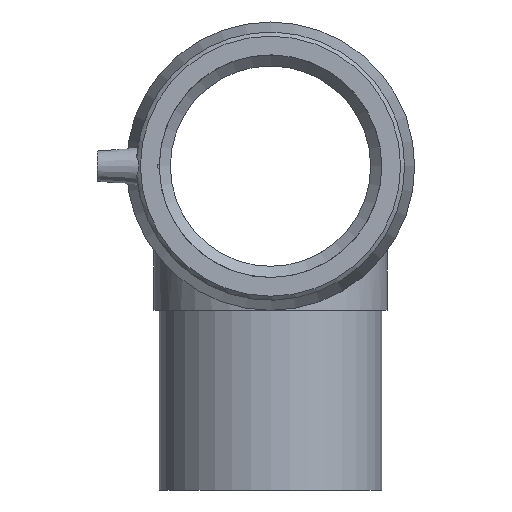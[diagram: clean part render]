
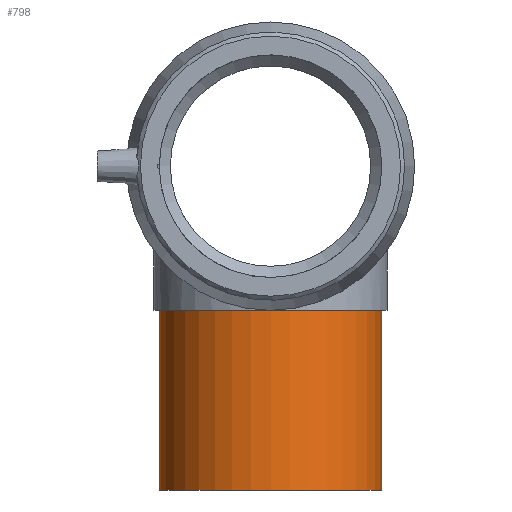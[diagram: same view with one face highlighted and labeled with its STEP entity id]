
A CAD part, left-side view. The second image highlights one B-rep face of the part: STEP entity #798.
In plain terms, the highlighted cylindrical face has radius 55 mm (diameter 110 mm), a full revolution.
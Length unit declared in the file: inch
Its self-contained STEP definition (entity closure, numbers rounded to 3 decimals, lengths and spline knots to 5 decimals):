
#79=FACE_OUTER_BOUND('',#128,.T.);
#128=EDGE_LOOP('',(#531,#532,#533,#534));
#189=LINE('',#1265,#220);
#220=VECTOR('',#993,2.16535);
#251=CIRCLE('',#868,2.16535);
#252=CIRCLE('',#869,2.16535);
#322=VERTEX_POINT('',#1262);
#323=VERTEX_POINT('',#1264);
#407=EDGE_CURVE('',#322,#322,#251,.T.);
#408=EDGE_CURVE('',#322,#323,#189,.T.);
#409=EDGE_CURVE('',#323,#323,#252,.T.);
#531=ORIENTED_EDGE('',*,*,#407,.T.);
#532=ORIENTED_EDGE('',*,*,#408,.T.);
#533=ORIENTED_EDGE('',*,*,#409,.F.);
#534=ORIENTED_EDGE('',*,*,#408,.F.);
#779=CYLINDRICAL_SURFACE('',#867,2.16535);
#798=ADVANCED_FACE('',(#79),#779,.T.);
#867=AXIS2_PLACEMENT_3D('',#1261,#989,#990);
#868=AXIS2_PLACEMENT_3D('',#1263,#991,#992);
#869=AXIS2_PLACEMENT_3D('',#1266,#994,#995);
#989=DIRECTION('center_axis',(0.,0.,1.));
#990=DIRECTION('ref_axis',(1.,0.,0.));
#991=DIRECTION('center_axis',(0.,0.,-1.));
#992=DIRECTION('ref_axis',(1.,0.,0.));
#993=DIRECTION('',(0.,0.,-1.));
#994=DIRECTION('center_axis',(0.,0.,-1.));
#995=DIRECTION('ref_axis',(1.,0.,0.));
#1261=CARTESIAN_POINT('Origin',(0.,0.,-6.3));
#1262=CARTESIAN_POINT('',(-2.16535,0.,-2.805));
#1263=CARTESIAN_POINT('Origin',(0.,0.,-2.805));
#1264=CARTESIAN_POINT('',(-2.16535,0.,-6.3));
#1265=CARTESIAN_POINT('',(-2.16535,0.,-6.3));
#1266=CARTESIAN_POINT('Origin',(0.,0.,-6.3));
